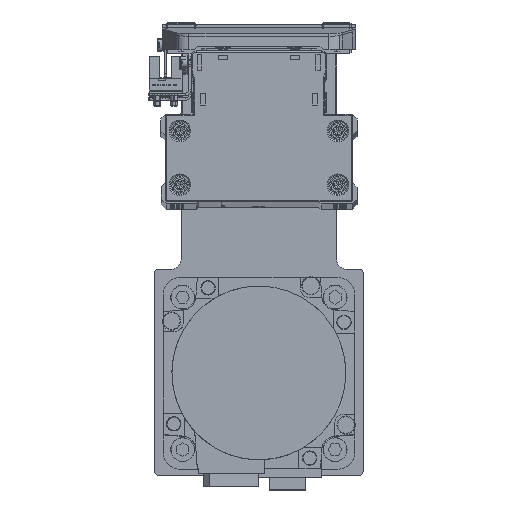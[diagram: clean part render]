
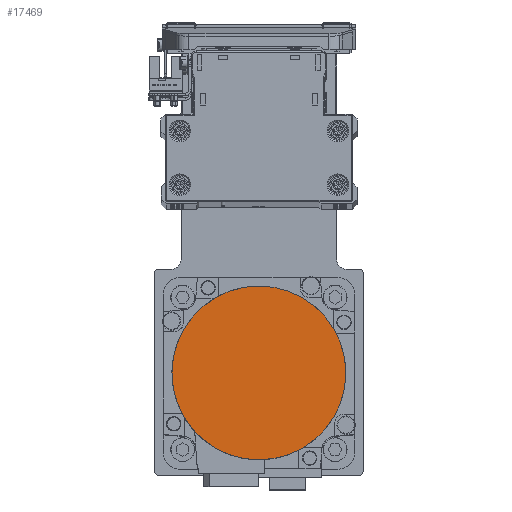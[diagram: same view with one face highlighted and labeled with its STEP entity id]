
A CAD part, top view. The second image highlights one B-rep face of the part: STEP entity #17469.
In plain terms, the highlighted planar face has unit normal (0, 0, 1) as drawn and (0, 0, -1) by its records, which use the part's own axes.
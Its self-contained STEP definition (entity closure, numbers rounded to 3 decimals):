
#326 = AXIS2_PLACEMENT_3D ( 'NONE', #36943, #8933, #21419 ) ;
#1248 = CARTESIAN_POINT ( 'NONE',  ( 0., 36.3, -122.2 ) ) ;
#1779 = CARTESIAN_POINT ( 'NONE',  ( 0., 0., -122.2 ) ) ;
#3880 = EDGE_CURVE ( 'NONE', #18649, #40367, #11308, .T. ) ;
#4358 = EDGE_LOOP ( 'NONE', ( #28065, #37934 ) ) ;
#7186 = CARTESIAN_POINT ( 'NONE',  ( 0., -36.3, -122.2 ) ) ;
#8485 = DIRECTION ( 'NONE',  ( 0., 0., 1. ) ) ;
#8933 = DIRECTION ( 'NONE',  ( 0., 0., 1. ) ) ;
#11308 = CIRCLE ( 'NONE', #34183, 36.3 ) ;
#11316 = EDGE_CURVE ( 'NONE', #40367, #18649, #35291, .T. ) ;
#12008 = FACE_OUTER_BOUND ( 'NONE', #4358, .T. ) ;
#14262 = DIRECTION ( 'NONE',  ( 0., 0., 1. ) ) ;
#17469 = ADVANCED_FACE ( 'NONE', ( #12008 ), #24489, .F. ) ;
#17661 = AXIS2_PLACEMENT_3D ( 'NONE', #36500, #8485, #20978 ) ;
#18649 = VERTEX_POINT ( 'NONE', #1248 ) ;
#20978 = DIRECTION ( 'NONE',  ( 0., -1., 0. ) ) ;
#21419 = DIRECTION ( 'NONE',  ( 1., 0., 0. ) ) ;
#24489 = PLANE ( 'NONE',  #326 ) ;
#26746 = DIRECTION ( 'NONE',  ( 0., 1., 0. ) ) ;
#28065 = ORIENTED_EDGE ( 'NONE', *, *, #3880, .F. ) ;
#34183 = AXIS2_PLACEMENT_3D ( 'NONE', #1779, #14262, #26746 ) ;
#35291 = CIRCLE ( 'NONE', #17661, 36.3 ) ;
#36500 = CARTESIAN_POINT ( 'NONE',  ( 0., 0., -122.2 ) ) ;
#36943 = CARTESIAN_POINT ( 'NONE',  ( 0., 0., -122.2 ) ) ;
#37934 = ORIENTED_EDGE ( 'NONE', *, *, #11316, .F. ) ;
#40367 = VERTEX_POINT ( 'NONE', #7186 ) ;
